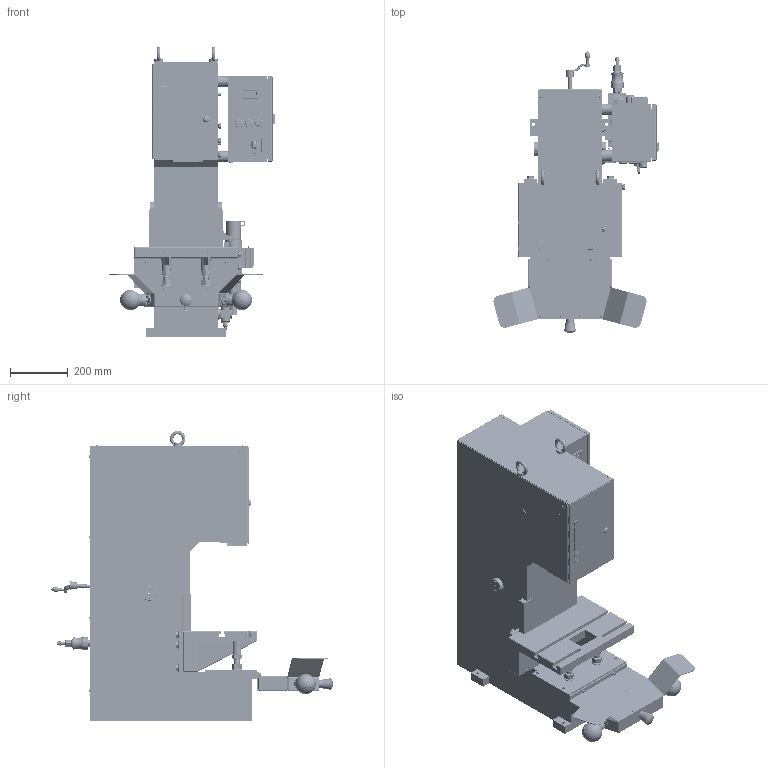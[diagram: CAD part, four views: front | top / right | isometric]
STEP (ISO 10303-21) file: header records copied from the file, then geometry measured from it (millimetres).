
FILE_DESCRIPTION(/* description */ (''),/* implementation_level */ '2;1');
FILE_NAME(/* name */ 'P:\CAD-Daten-für-Kunden\07_Pressen KHP\01_KHP Standard\mit ZS07\Presse_KHP_50kN_G800_Hub62+V_ANR31992+ZS07.stp',/* time_stamp */ '2021-03-08T10:54:13+01:00',/* author */ ('tse'),/* organization */ (''),/* preprocessor_version */ 'ST-DEVELOPER v18',/* originating_system */ 'Autodesk Inventor 2020',/* authorisation */ '');
FILE_SCHEMA (('AUTOMOTIVE_DESIGN { 1 0 10303 214 3 1 1 }'));
Products named in the file (8): Presse_KHP_50kN_G800_Hub62+V_ANR31992+ZS07; Ständereinheit_KHP_50-70kN_G800_V; Tischeinheit_KHP_50-70-100kN_HPC_110kN_ANR18613; Schlittendummy_KHP_50-70-100kN_HPC_110kN_ANR18607; ZS07_Steuerung_KHP_1-2_ANR_31205; Zweihand_Tasterkasten_mit_Safeballs_und_Not-Aus_ANR_30032; Pneumatik_KHP_1_2kN; ZS07_Steuerkasten_ANR_31201
Assembly tree (7 placements, depth 3):
  Presse_KHP_50kN_G800_Hub62+V_ANR31992+ZS07
    Ständereinheit_KHP_50-70kN_G800_V
    Tischeinheit_KHP_50-70-100kN_HPC_110kN_ANR18613
    Schlittendummy_KHP_50-70-100kN_HPC_110kN_ANR18607
    ZS07_Steuerung_KHP_1-2_ANR_31205
      Zweihand_Tasterkasten_mit_Safeballs_und_Not-Aus_ANR_30032
      Pneumatik_KHP_1_2kN
      ZS07_Steuerkasten_ANR_31201
Bounding box: 571.47 x 975.47 x 1005 mm (x, y, z)
Volume: 93759259.6 mm3; surface area: 4342628.5 mm2
Topology: 13 solids, 61 shells, 16675 faces, 45228 edges, 30097 vertices
Faces by surface type: plane 9450, bspline 4136, cylinder 1989, cone 812, torus 224, sphere 64
Full cylindrical faces by diameter (mm): 0.4 x1, 0.474 x1, 0.98 x3, 1.1 x40, 1.5 x1, 1.6 x2, 1.9 x4, 2 x17, 2.013 x1, 2.1 x8, 2.459 x8, 2.5 x6, 2.75 x4, 3 x16, 3.1 x5, 3.141 x8, 3.2 x8, 3.242 x16, 3.4 x4, 3.7 x8, 3.8 x2, 4 x27, 4.1 x17, 4.134 x4, 4.2 x6, 4.3 x2, 4.4 x4, 4.5 x18, 4.8 x5, 4.9 x1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
Entity records: 571877 total; most frequent: CARTESIAN_POINT 158345, ORIENTED_EDGE 90260, DIRECTION 67573, EDGE_CURVE 45130, VERTEX_POINT 30097, LINE 28193, VECTOR 28193, AXIS2_PLACEMENT_3D 19690
